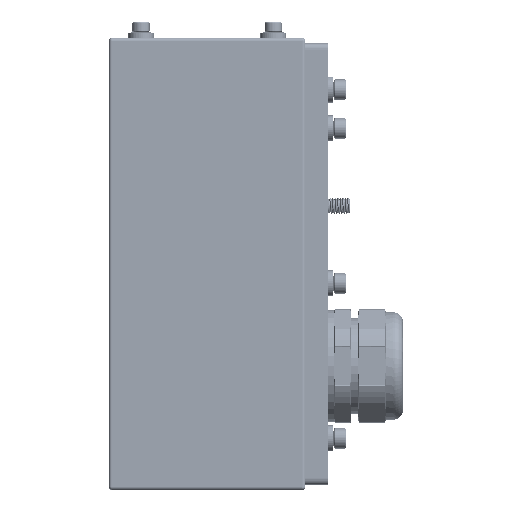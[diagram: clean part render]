
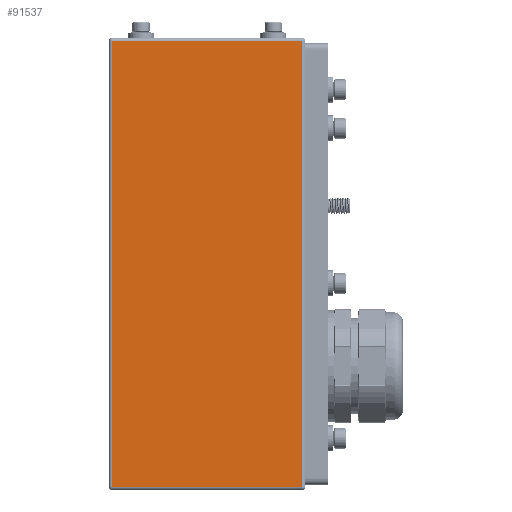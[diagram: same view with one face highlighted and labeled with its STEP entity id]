
A CAD part, left-side view. The second image highlights one B-rep face of the part: STEP entity #91537.
In plain terms, the highlighted planar face has unit normal (-1, 0, 0).
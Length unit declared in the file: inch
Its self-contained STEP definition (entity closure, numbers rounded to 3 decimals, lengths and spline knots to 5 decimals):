
#17478 = DIRECTION ( 'NONE',  ( 0., -1., 0. ) ) ;
#18116 = DIRECTION ( 'NONE',  ( 0., 0., -1. ) ) ;
#27919 = DIRECTION ( 'NONE',  ( 0., 0., 1. ) ) ;
#32031 = DIRECTION ( 'NONE',  ( 0., 0., -1. ) ) ;
#44945 = ORIENTED_EDGE ( 'NONE', *, *, #104889, .T. ) ;
#50654 = CARTESIAN_POINT ( 'NONE',  ( -1.9, 3.74, -8.69 ) ) ;
#52924 = LINE ( 'NONE', #336511, #207850 ) ;
#62765 = CARTESIAN_POINT ( 'NONE',  ( -1.9, 0.06, -8.75 ) ) ;
#87154 = LINE ( 'NONE', #126650, #363409 ) ;
#91537 = ADVANCED_FACE ( 'NONE', ( #271582 ), #234401, .F. ) ;
#94853 = CARTESIAN_POINT ( 'NONE',  ( -1.9, 3.8, -8.75 ) ) ;
#95173 = ORIENTED_EDGE ( 'NONE', *, *, #177523, .T. ) ;
#104889 = EDGE_CURVE ( 'NONE', #367004, #148464, #418377, .T. ) ;
#126650 = CARTESIAN_POINT ( 'NONE',  ( -1.9, 3.8, -8.69 ) ) ;
#130903 = DIRECTION ( 'NONE',  ( 0., 1., 0. ) ) ;
#148464 = VERTEX_POINT ( 'NONE', #351005 ) ;
#153282 = CARTESIAN_POINT ( 'NONE',  ( -1.9, 3.74, -0.06 ) ) ;
#155895 = VECTOR ( 'NONE', #27919, 39.37008 ) ;
#177523 = EDGE_CURVE ( 'NONE', #192750, #367004, #87154, .T. ) ;
#179074 = EDGE_CURVE ( 'NONE', #419408, #192750, #52924, .T. ) ;
#192750 = VERTEX_POINT ( 'NONE', #50654 ) ;
#207850 = VECTOR ( 'NONE', #18116, 39.37008 ) ;
#230529 = ORIENTED_EDGE ( 'NONE', *, *, #238557, .T. ) ;
#234401 = PLANE ( 'NONE',  #369355 ) ;
#236688 = DIRECTION ( 'NONE',  ( 1., 0., 0. ) ) ;
#238557 = EDGE_CURVE ( 'NONE', #148464, #419408, #314399, .T. ) ;
#271582 = FACE_OUTER_BOUND ( 'NONE', #336094, .T. ) ;
#272886 = VECTOR ( 'NONE', #130903, 39.37008 ) ;
#314399 = LINE ( 'NONE', #449278, #272886 ) ;
#326061 = CARTESIAN_POINT ( 'NONE',  ( -1.9, 0.06, -8.69 ) ) ;
#336094 = EDGE_LOOP ( 'NONE', ( #410196, #95173, #44945, #230529 ) ) ;
#336511 = CARTESIAN_POINT ( 'NONE',  ( -1.9, 3.74, -8.75 ) ) ;
#351005 = CARTESIAN_POINT ( 'NONE',  ( -1.9, 0.06, -0.06 ) ) ;
#363409 = VECTOR ( 'NONE', #17478, 39.37008 ) ;
#367004 = VERTEX_POINT ( 'NONE', #326061 ) ;
#369355 = AXIS2_PLACEMENT_3D ( 'NONE', #94853, #236688, #32031 ) ;
#410196 = ORIENTED_EDGE ( 'NONE', *, *, #179074, .T. ) ;
#418377 = LINE ( 'NONE', #62765, #155895 ) ;
#419408 = VERTEX_POINT ( 'NONE', #153282 ) ;
#449278 = CARTESIAN_POINT ( 'NONE',  ( -1.9, 3.8, -0.06 ) ) ;
